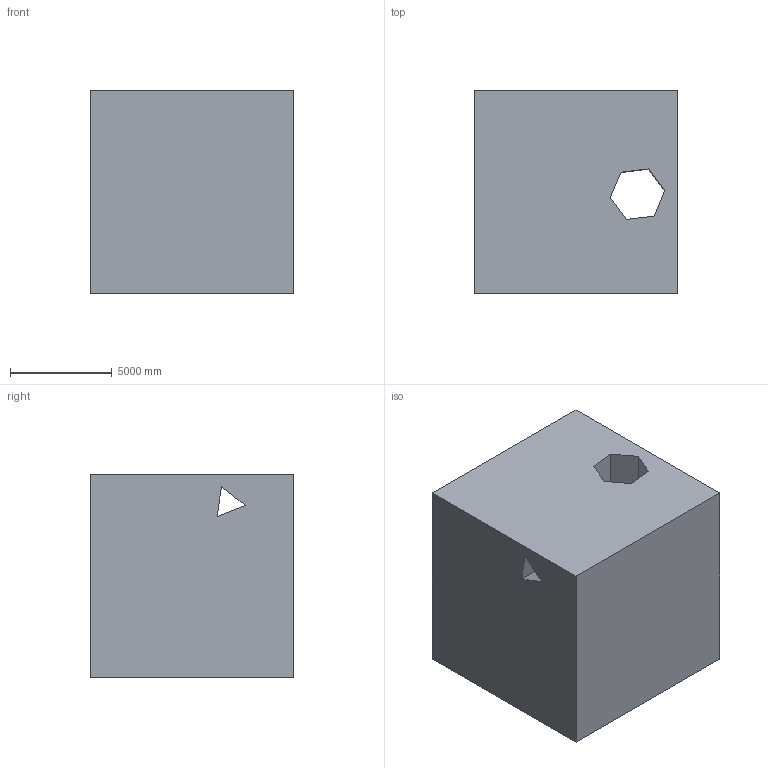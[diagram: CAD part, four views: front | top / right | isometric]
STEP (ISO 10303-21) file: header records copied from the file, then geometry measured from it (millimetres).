
FILE_DESCRIPTION (( 'STEP AP203' ), '1' );
FILE_NAME ('38.STEP', '2022-08-31T11:14:49', ( 'user' ), ( '' ), 'SwSTEP 2.0', 'SolidWorks 2021', '' );
FILE_SCHEMA (( 'CONFIG_CONTROL_DESIGN' ));
Length unit declared in the file: centimetre
Products named in the file (1): 38
Bounding box: 10000 x 10000 x 10000 mm (x, y, z)
Volume: 942990572926.5 mm3; surface area: 713216276.7 mm2
Topology: 1 solids, 1 shells, 15 faces, 45 edges, 30 vertices
Faces by surface type: plane 15
Entity records: 588 total; most frequent: CARTESIAN_POINT 91, ORIENTED_EDGE 90, DIRECTION 77, EDGE_CURVE 45, LINE 45, VECTOR 45, VERTEX_POINT 30, EDGE_LOOP 19
